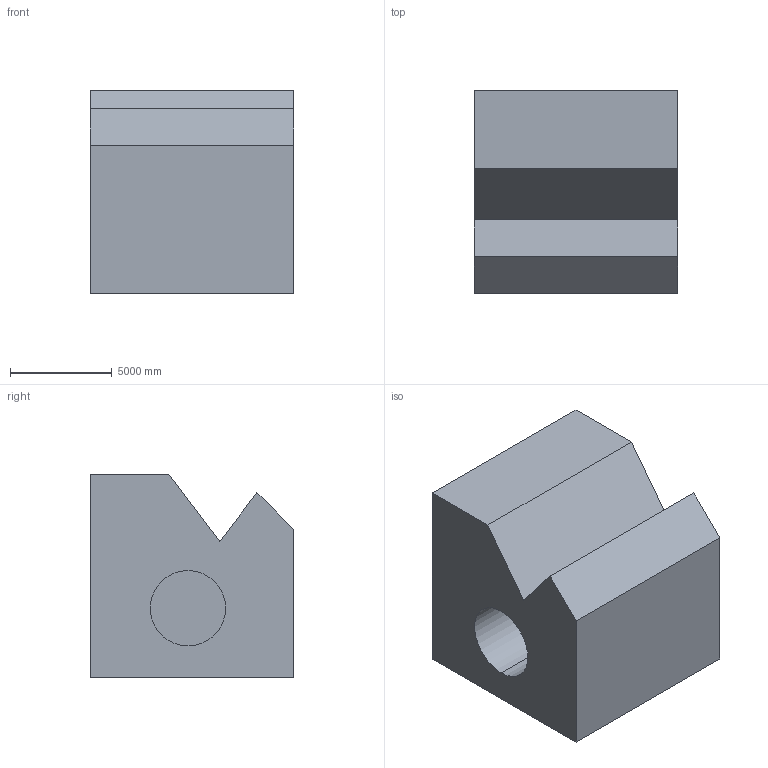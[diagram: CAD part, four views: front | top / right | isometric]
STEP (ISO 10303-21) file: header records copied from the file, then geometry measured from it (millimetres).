
FILE_DESCRIPTION (( 'STEP AP203' ), '1' );
FILE_NAME ('1331.STEP', '2022-08-18T13:49:01', ( 'user' ), ( '' ), 'SwSTEP 2.0', 'SolidWorks 2021', '' );
FILE_SCHEMA (( 'CONFIG_CONTROL_DESIGN' ));
Length unit declared in the file: centimetre
Products named in the file (1): 1331
Bounding box: 10000 x 10000 x 10000 mm (x, y, z)
Volume: 791746697769.7 mm3; surface area: 705892115.1 mm2
Topology: 1 solids, 1 shells, 18 faces, 39 edges, 26 vertices
Faces by surface type: plane 12, cylinder 6
Entity records: 572 total; most frequent: DIRECTION 89, CARTESIAN_POINT 84, ORIENTED_EDGE 78, EDGE_CURVE 39, AXIS2_PLACEMENT_3D 31, VECTOR 27, LINE 27, VERTEX_POINT 26
